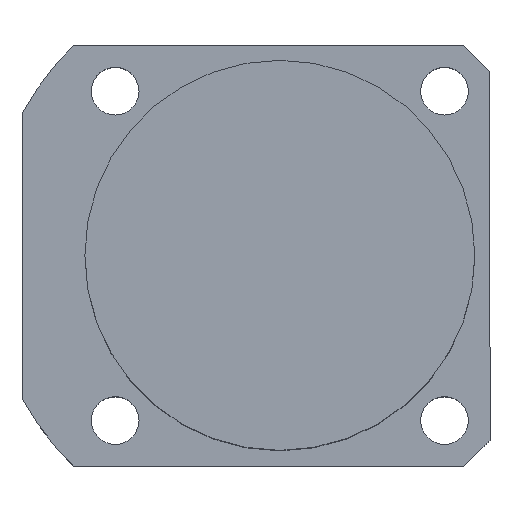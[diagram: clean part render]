
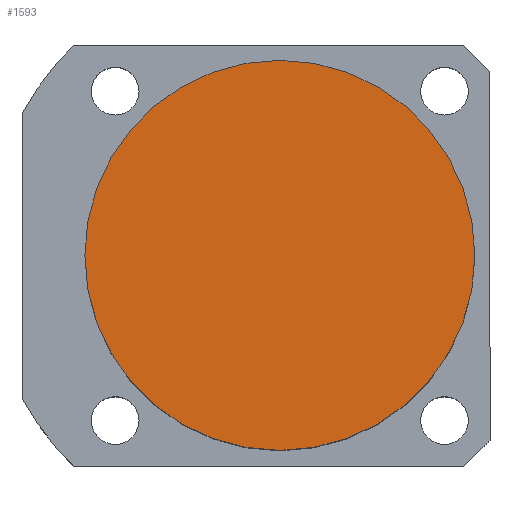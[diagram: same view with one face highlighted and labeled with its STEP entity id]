
A CAD part, top view. The second image highlights one B-rep face of the part: STEP entity #1593.
In plain terms, the highlighted planar face has unit normal (0, 0, 1).
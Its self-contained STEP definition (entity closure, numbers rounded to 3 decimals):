
#84 = FACE_OUTER_BOUND ( 'NONE', #1459, .T. ) ;
#244 = VERTEX_POINT ( 'NONE', #888 ) ;
#259 = CARTESIAN_POINT ( 'NONE',  ( 0., 0., 84.5 ) ) ;
#397 = DIRECTION ( 'NONE',  ( 0., 0., 1. ) ) ;
#483 = DIRECTION ( 'NONE',  ( 0., 0., 1. ) ) ;
#509 = ORIENTED_EDGE ( 'NONE', *, *, #1605, .T. ) ;
#636 = AXIS2_PLACEMENT_3D ( 'NONE', #710, #1301, #1785 ) ;
#660 = ORIENTED_EDGE ( 'NONE', *, *, #1902, .T. ) ;
#710 = CARTESIAN_POINT ( 'NONE',  ( 0., 0., 84.5 ) ) ;
#888 = CARTESIAN_POINT ( 'NONE',  ( 45., 0., 84.5 ) ) ;
#975 = PLANE ( 'NONE',  #1907 ) ;
#1152 = VERTEX_POINT ( 'NONE', #1792 ) ;
#1301 = DIRECTION ( 'NONE',  ( 0., 0., 1. ) ) ;
#1440 = DIRECTION ( 'NONE',  ( 1., 0., 0. ) ) ;
#1448 = AXIS2_PLACEMENT_3D ( 'NONE', #1677, #483, #1844 ) ;
#1459 = EDGE_LOOP ( 'NONE', ( #509, #660 ) ) ;
#1504 = CIRCLE ( 'NONE', #1448, 45. ) ;
#1593 = ADVANCED_FACE ( 'NONE', ( #84 ), #975, .T. ) ;
#1605 = EDGE_CURVE ( 'NONE', #1152, #244, #1897, .T. ) ;
#1677 = CARTESIAN_POINT ( 'NONE',  ( 0., 0., 84.5 ) ) ;
#1785 = DIRECTION ( 'NONE',  ( 1., 0., 0. ) ) ;
#1792 = CARTESIAN_POINT ( 'NONE',  ( -45., 0., 84.5 ) ) ;
#1844 = DIRECTION ( 'NONE',  ( 1., 0., 0. ) ) ;
#1897 = CIRCLE ( 'NONE', #636, 45. ) ;
#1902 = EDGE_CURVE ( 'NONE', #244, #1152, #1504, .T. ) ;
#1907 = AXIS2_PLACEMENT_3D ( 'NONE', #259, #397, #1440 ) ;
